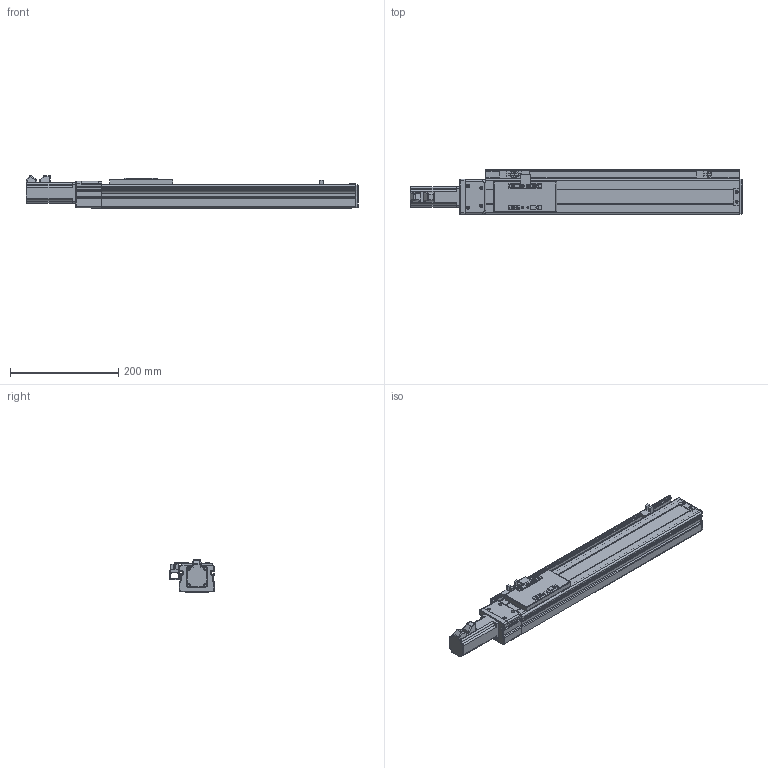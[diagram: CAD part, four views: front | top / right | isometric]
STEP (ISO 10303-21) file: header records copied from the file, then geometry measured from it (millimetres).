
FILE_DESCRIPTION (( 'STEP AP203' ), '1' );
FILE_NAME ('VT6-L10-C-S320-BC-P10-C4.STEP', '2015-10-26T05:57:24', ( '' ), ( '' ), 'SwSTEP 2.0', 'SolidWorks 2013', '' );
FILE_SCHEMA (( 'CONFIG_CONTROL_DESIGN' ));
Length unit declared in the file: millimetre
Products named in the file (15): T6-賑雄殤; T6-裔啣; T6-揤輸; T6-覜茼え; T6-綴傷裔; ET6-BC癹弇羲壽羞_320; EE-XS674; ET6-BC絳寢_俴最320; ET6-BC滅鳥湍_320; T6-BCヶ傷裔揤啣; T6-BCヶ傷裔; 侂狟100W MSMD012G1U; ET6-BC佪裝_320; VT6-L10-C-S320-BC-P10-C4; ET6-BC耜啣_320
Assembly tree (17 placements, depth 2):
  VT6-L10-C-S320-BC-P10-C4
    ET6-BC耜啣_320  x2
    ET6-BC癹弇羲壽羞_320
    T6-賑雄殤
    T6-裔啣
    T6-揤輸
    T6-覜茼え
    T6-綴傷裔
    EE-XS674  x3
    ET6-BC絳寢_俴最320
    ET6-BC滅鳥湍_320
    T6-BCヶ傷裔揤啣
    T6-BCヶ傷裔
    侂狟100W MSMD012G1U
    ET6-BC佪裝_320
Bounding box: 614 x 83 x 61 mm (x, y, z)
Volume: 740990.5 mm3; surface area: 398212.3 mm2
Topology: 17 solids, 17 shells, 876 faces, 2313 edges, 1460 vertices
Faces by surface type: cylinder 396, plane 378, cone 56, torus 28, sphere 18
Entity records: 26810 total; most frequent: CARTESIAN_POINT 4657, DIRECTION 4465, ORIENTED_EDGE 4152, EDGE_CURVE 2076, AXIS2_PLACEMENT_3D 1620, VERTEX_POINT 1320, VECTOR 1225, LINE 1225
